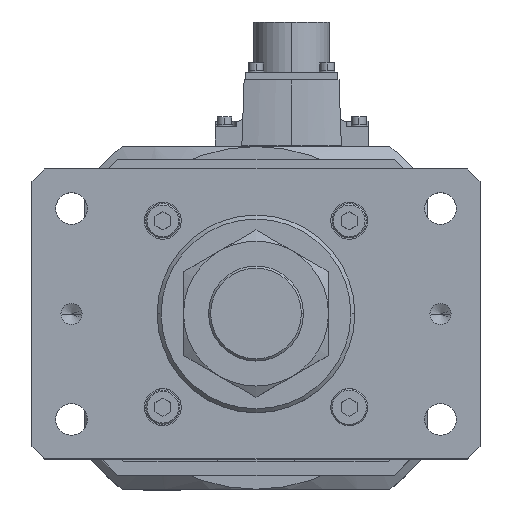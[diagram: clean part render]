
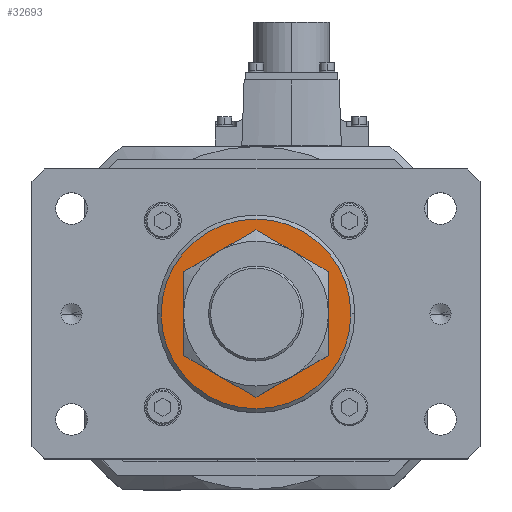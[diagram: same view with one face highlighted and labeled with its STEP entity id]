
A CAD part, top view. The second image highlights one B-rep face of the part: STEP entity #32693.
In plain terms, the highlighted planar face has unit normal (0, 0, 1).
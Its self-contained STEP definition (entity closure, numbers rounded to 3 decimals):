
#915 = ORIENTED_EDGE ( 'NONE', *, *, #13902, .T. ) ;
#1023 = EDGE_CURVE ( 'NONE', #6549, #10562, #23494, .T. ) ;
#2020 = CARTESIAN_POINT ( 'NONE',  ( 0., 0., 596. ) ) ;
#5321 = CIRCLE ( 'NONE', #22921, 23. ) ;
#5755 = CARTESIAN_POINT ( 'NONE',  ( 0., 0., 596. ) ) ;
#6549 = VERTEX_POINT ( 'NONE', #20038 ) ;
#7714 = CARTESIAN_POINT ( 'NONE',  ( 23., 0., 596. ) ) ;
#8258 = VERTEX_POINT ( 'NONE', #24120 ) ;
#8453 = AXIS2_PLACEMENT_3D ( 'NONE', #2020, #27703, #22105 ) ;
#8530 = DIRECTION ( 'NONE',  ( 0., 0., -1. ) ) ;
#10562 = VERTEX_POINT ( 'NONE', #7714 ) ;
#12738 = AXIS2_PLACEMENT_3D ( 'NONE', #19726, #16957, #34031 ) ;
#13262 = FACE_OUTER_BOUND ( 'NONE', #22758, .T. ) ;
#13386 = EDGE_CURVE ( 'NONE', #8258, #30334, #23512, .T. ) ;
#13902 = EDGE_CURVE ( 'NONE', #30334, #8258, #35508, .T. ) ;
#14928 = AXIS2_PLACEMENT_3D ( 'NONE', #21924, #24769, #25144 ) ;
#14933 = DIRECTION ( 'NONE',  ( 0., 0., -1. ) ) ;
#16845 = PLANE ( 'NONE',  #8453 ) ;
#16957 = DIRECTION ( 'NONE',  ( 0., 0., 1. ) ) ;
#17024 = EDGE_CURVE ( 'NONE', #10562, #6549, #5321, .T. ) ;
#19726 = CARTESIAN_POINT ( 'NONE',  ( 0., 0., 596. ) ) ;
#20038 = CARTESIAN_POINT ( 'NONE',  ( -23., 0., 596. ) ) ;
#20546 = EDGE_LOOP ( 'NONE', ( #33836, #30913 ) ) ;
#20586 = DIRECTION ( 'NONE',  ( 1., 0., 0. ) ) ;
#21924 = CARTESIAN_POINT ( 'NONE',  ( 0., 0., 596. ) ) ;
#22105 = DIRECTION ( 'NONE',  ( 1., 0., 0. ) ) ;
#22758 = EDGE_LOOP ( 'NONE', ( #31270, #915 ) ) ;
#22921 = AXIS2_PLACEMENT_3D ( 'NONE', #5755, #8530, #26012 ) ;
#23494 = CIRCLE ( 'NONE', #31047, 23. ) ;
#23512 = CIRCLE ( 'NONE', #12738, 36. ) ;
#24120 = CARTESIAN_POINT ( 'NONE',  ( -36., 0., 596. ) ) ;
#24769 = DIRECTION ( 'NONE',  ( 0., 0., 1. ) ) ;
#25144 = DIRECTION ( 'NONE',  ( 1., 0., 0. ) ) ;
#26012 = DIRECTION ( 'NONE',  ( 1., 0., 0. ) ) ;
#27703 = DIRECTION ( 'NONE',  ( 0., 0., 1. ) ) ;
#29276 = FACE_BOUND ( 'NONE', #20546, .T. ) ;
#30334 = VERTEX_POINT ( 'NONE', #35781 ) ;
#30913 = ORIENTED_EDGE ( 'NONE', *, *, #1023, .T. ) ;
#31047 = AXIS2_PLACEMENT_3D ( 'NONE', #32017, #14933, #20586 ) ;
#31270 = ORIENTED_EDGE ( 'NONE', *, *, #13386, .T. ) ;
#32017 = CARTESIAN_POINT ( 'NONE',  ( 0., 0., 596. ) ) ;
#32693 = ADVANCED_FACE ( 'NONE', ( #29276, #13262 ), #16845, .T. ) ;
#33836 = ORIENTED_EDGE ( 'NONE', *, *, #17024, .T. ) ;
#34031 = DIRECTION ( 'NONE',  ( 1., 0., 0. ) ) ;
#35508 = CIRCLE ( 'NONE', #14928, 36. ) ;
#35781 = CARTESIAN_POINT ( 'NONE',  ( 36., 0., 596. ) ) ;
